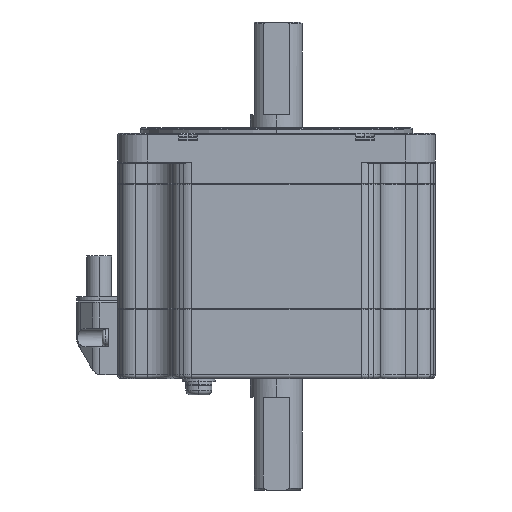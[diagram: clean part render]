
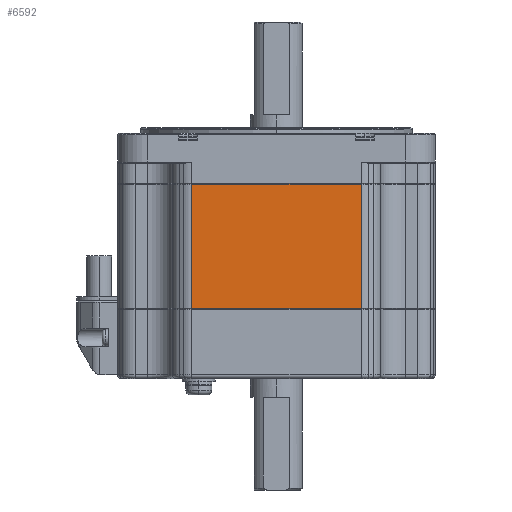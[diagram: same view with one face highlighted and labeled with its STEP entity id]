
A CAD part, left-side view. The second image highlights one B-rep face of the part: STEP entity #6592.
In plain terms, the highlighted planar face has unit normal (-1, 0, 0).
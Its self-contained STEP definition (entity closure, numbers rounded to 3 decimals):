
#4653 = VECTOR ( 'NONE', #21894, 1000. ) ;
#4667 = VECTOR ( 'NONE', #21902, 1000. ) ;
#4726 = VECTOR ( 'NONE', #21924, 1000. ) ;
#4743 = VECTOR ( 'NONE', #21859, 1000. ) ;
#6592 = ADVANCED_FACE ( 'NONE', ( #11188 ), #22650, .F. ) ;
#11188 = FACE_OUTER_BOUND ( 'NONE', #14100, .T. ) ;
#12347 = VERTEX_POINT ( 'NONE', #21223 ) ;
#13087 = VERTEX_POINT ( 'NONE', #21685 ) ;
#13313 = VERTEX_POINT ( 'NONE', #21835 ) ;
#13318 = VERTEX_POINT ( 'NONE', #21838 ) ;
#14100 = EDGE_LOOP ( 'NONE', ( #18894, #19191, #18721, #18789 ) ) ;
#14565 = EDGE_CURVE ( 'NONE', #13087, #13318, #18366, .T. ) ;
#14579 = EDGE_CURVE ( 'NONE', #13313, #12347, #18623, .T. ) ;
#14582 = EDGE_CURVE ( 'NONE', #12347, #13318, #18350, .T. ) ;
#14591 = EDGE_CURVE ( 'NONE', #13087, #13313, #18194, .T. ) ;
#18194 = LINE ( 'NONE', #21923, #4726 ) ;
#18350 = LINE ( 'NONE', #21901, #4667 ) ;
#18366 = LINE ( 'NONE', #21858, #4743 ) ;
#18623 = LINE ( 'NONE', #21893, #4653 ) ;
#18721 = ORIENTED_EDGE ( 'NONE', *, *, #14579, .T. ) ;
#18789 = ORIENTED_EDGE ( 'NONE', *, *, #14582, .T. ) ;
#18894 = ORIENTED_EDGE ( 'NONE', *, *, #14565, .F. ) ;
#19191 = ORIENTED_EDGE ( 'NONE', *, *, #14591, .T. ) ;
#19860 = AXIS2_PLACEMENT_3D ( 'NONE', #22651, #22653, #22655 ) ;
#21223 = CARTESIAN_POINT ( 'NONE',  ( -42.75, -22.879, -13.7 ) ) ;
#21685 = CARTESIAN_POINT ( 'NONE',  ( -42.75, 22.879, -47.1 ) ) ;
#21835 = CARTESIAN_POINT ( 'NONE',  ( -42.75, -22.879, -47.1 ) ) ;
#21838 = CARTESIAN_POINT ( 'NONE',  ( -42.75, 22.879, -13.7 ) ) ;
#21858 = CARTESIAN_POINT ( 'NONE',  ( -42.75, 22.879, -47.3 ) ) ;
#21859 = DIRECTION ( 'NONE',  ( 0., 0., 1. ) ) ;
#21893 = CARTESIAN_POINT ( 'NONE',  ( -42.75, -22.879, -47.3 ) ) ;
#21894 = DIRECTION ( 'NONE',  ( 0., 0., 1. ) ) ;
#21901 = CARTESIAN_POINT ( 'NONE',  ( -42.75, 22.879, -13.7 ) ) ;
#21902 = DIRECTION ( 'NONE',  ( 0., 1., 0. ) ) ;
#21923 = CARTESIAN_POINT ( 'NONE',  ( -42.75, 22.879, -47.1 ) ) ;
#21924 = DIRECTION ( 'NONE',  ( 0., -1., 0. ) ) ;
#22650 = PLANE ( 'NONE',  #19860 ) ;
#22651 = CARTESIAN_POINT ( 'NONE',  ( -42.75, 22.879, -47.3 ) ) ;
#22653 = DIRECTION ( 'NONE',  ( 1., 0., 0. ) ) ;
#22655 = DIRECTION ( 'NONE',  ( 0., 0., -1. ) ) ;
